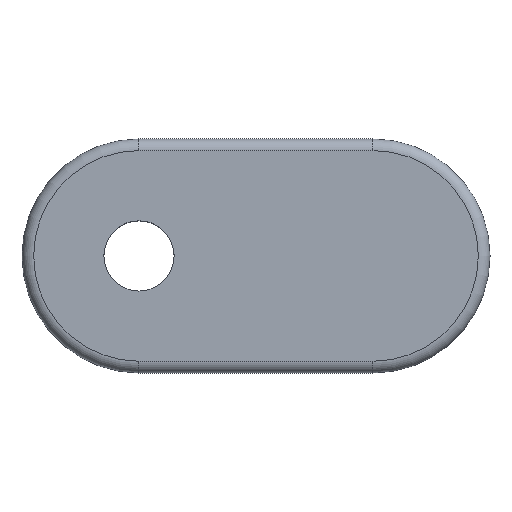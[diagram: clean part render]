
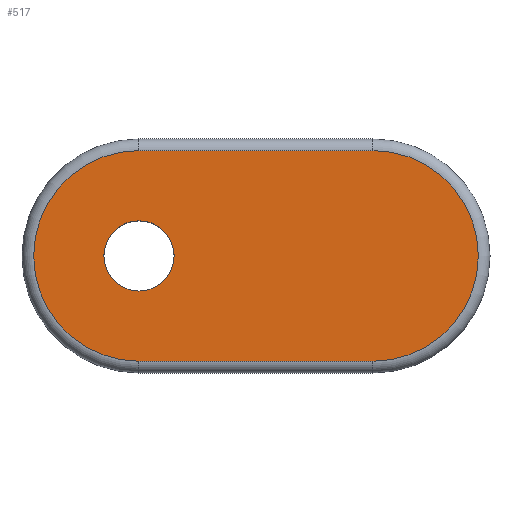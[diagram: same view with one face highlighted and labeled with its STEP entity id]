
A CAD part, top view. The second image highlights one B-rep face of the part: STEP entity #517.
In plain terms, the highlighted planar face has unit normal (0, 0, 1).
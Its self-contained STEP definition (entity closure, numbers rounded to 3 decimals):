
#72 = CYLINDRICAL_SURFACE('',#73,1.);
#73 = AXIS2_PLACEMENT_3D('',#74,#75,#76);
#74 = CARTESIAN_POINT('',(60.,1.,5.));
#75 = DIRECTION('',(1.,0.,0.));
#76 = DIRECTION('',(0.,-1.,-0.));
#186 = TOROIDAL_SURFACE('',#187,9.,1.);
#187 = AXIS2_PLACEMENT_3D('',#188,#189,#190);
#188 = CARTESIAN_POINT('',(60.,10.,5.));
#189 = DIRECTION('',(0.,0.,1.));
#190 = DIRECTION('',(0.,1.,0.));
#225 = VERTEX_POINT('',#226);
#226 = CARTESIAN_POINT('',(60.,1.,6.));
#248 = EDGE_CURVE('',#225,#249,#251,.T.);
#249 = VERTEX_POINT('',#250);
#250 = CARTESIAN_POINT('',(80.,1.,6.));
#251 = SURFACE_CURVE('',#252,(#256,#263),.PCURVE_S1.);
#252 = LINE('',#253,#254);
#253 = CARTESIAN_POINT('',(60.,1.,6.));
#254 = VECTOR('',#255,1.);
#255 = DIRECTION('',(1.,0.,0.));
#256 = PCURVE('',#72,#257);
#257 = DEFINITIONAL_REPRESENTATION('',(#258),#262);
#258 = LINE('',#259,#260);
#259 = CARTESIAN_POINT('',(-1.571,0.));
#260 = VECTOR('',#261,1.);
#261 = DIRECTION('',(-0.,1.));
#262 = ( GEOMETRIC_REPRESENTATION_CONTEXT(2) 
PARAMETRIC_REPRESENTATION_CONTEXT() REPRESENTATION_CONTEXT('2D SPACE',''
  ) );
#263 = PCURVE('',#264,#269);
#264 = PLANE('',#265);
#265 = AXIS2_PLACEMENT_3D('',#266,#267,#268);
#266 = CARTESIAN_POINT('',(70.,10.,6.));
#267 = DIRECTION('',(0.,0.,1.));
#268 = DIRECTION('',(1.,0.,0.));
#269 = DEFINITIONAL_REPRESENTATION('',(#270),#274);
#270 = LINE('',#271,#272);
#271 = CARTESIAN_POINT('',(-10.,-9.));
#272 = VECTOR('',#273,1.);
#273 = DIRECTION('',(1.,0.));
#274 = ( GEOMETRIC_REPRESENTATION_CONTEXT(2) 
PARAMETRIC_REPRESENTATION_CONTEXT() REPRESENTATION_CONTEXT('2D SPACE',''
  ) );
#291 = TOROIDAL_SURFACE('',#292,9.,1.);
#292 = AXIS2_PLACEMENT_3D('',#293,#294,#295);
#293 = CARTESIAN_POINT('',(80.,10.,5.));
#294 = DIRECTION('',(0.,0.,1.));
#295 = DIRECTION('',(0.,-1.,0.));
#373 = CYLINDRICAL_SURFACE('',#374,3.);
#374 = AXIS2_PLACEMENT_3D('',#375,#376,#377);
#375 = CARTESIAN_POINT('',(60.,10.,0.));
#376 = DIRECTION('',(0.,0.,1.));
#377 = DIRECTION('',(1.,0.,0.));
#453 = CYLINDRICAL_SURFACE('',#454,1.);
#454 = AXIS2_PLACEMENT_3D('',#455,#456,#457);
#455 = CARTESIAN_POINT('',(80.,19.,5.));
#456 = DIRECTION('',(-1.,0.,0.));
#457 = DIRECTION('',(0.,1.,0.));
#471 = VERTEX_POINT('',#472);
#472 = CARTESIAN_POINT('',(60.,19.,6.));
#496 = EDGE_CURVE('',#471,#225,#497,.T.);
#497 = SURFACE_CURVE('',#498,(#503,#510),.PCURVE_S1.);
#498 = CIRCLE('',#499,9.);
#499 = AXIS2_PLACEMENT_3D('',#500,#501,#502);
#500 = CARTESIAN_POINT('',(60.,10.,6.));
#501 = DIRECTION('',(0.,-0.,1.));
#502 = DIRECTION('',(0.,1.,0.));
#503 = PCURVE('',#186,#504);
#504 = DEFINITIONAL_REPRESENTATION('',(#505),#509);
#505 = LINE('',#506,#507);
#506 = CARTESIAN_POINT('',(0.,1.571));
#507 = VECTOR('',#508,1.);
#508 = DIRECTION('',(1.,0.));
#509 = ( GEOMETRIC_REPRESENTATION_CONTEXT(2) 
PARAMETRIC_REPRESENTATION_CONTEXT() REPRESENTATION_CONTEXT('2D SPACE',''
  ) );
#510 = PCURVE('',#264,#511);
#511 = DEFINITIONAL_REPRESENTATION('',(#512),#516);
#512 = CIRCLE('',#513,9.);
#513 = AXIS2_PLACEMENT_2D('',#514,#515);
#514 = CARTESIAN_POINT('',(-10.,0.));
#515 = DIRECTION('',(0.,1.));
#516 = ( GEOMETRIC_REPRESENTATION_CONTEXT(2) 
PARAMETRIC_REPRESENTATION_CONTEXT() REPRESENTATION_CONTEXT('2D SPACE',''
  ) );
#517 = ADVANCED_FACE('',(#518,#567),#264,.T.);
#518 = FACE_BOUND('',#519,.T.);
#519 = EDGE_LOOP('',(#520,#521,#545,#566));
#520 = ORIENTED_EDGE('',*,*,#248,.T.);
#521 = ORIENTED_EDGE('',*,*,#522,.T.);
#522 = EDGE_CURVE('',#249,#523,#525,.T.);
#523 = VERTEX_POINT('',#524);
#524 = CARTESIAN_POINT('',(80.,19.,6.));
#525 = SURFACE_CURVE('',#526,(#531,#538),.PCURVE_S1.);
#526 = CIRCLE('',#527,9.);
#527 = AXIS2_PLACEMENT_3D('',#528,#529,#530);
#528 = CARTESIAN_POINT('',(80.,10.,6.));
#529 = DIRECTION('',(-0.,0.,1.));
#530 = DIRECTION('',(0.,-1.,0.));
#531 = PCURVE('',#264,#532);
#532 = DEFINITIONAL_REPRESENTATION('',(#533),#537);
#533 = CIRCLE('',#534,9.);
#534 = AXIS2_PLACEMENT_2D('',#535,#536);
#535 = CARTESIAN_POINT('',(10.,0.));
#536 = DIRECTION('',(0.,-1.));
#537 = ( GEOMETRIC_REPRESENTATION_CONTEXT(2) 
PARAMETRIC_REPRESENTATION_CONTEXT() REPRESENTATION_CONTEXT('2D SPACE',''
  ) );
#538 = PCURVE('',#291,#539);
#539 = DEFINITIONAL_REPRESENTATION('',(#540),#544);
#540 = LINE('',#541,#542);
#541 = CARTESIAN_POINT('',(0.,1.571));
#542 = VECTOR('',#543,1.);
#543 = DIRECTION('',(1.,0.));
#544 = ( GEOMETRIC_REPRESENTATION_CONTEXT(2) 
PARAMETRIC_REPRESENTATION_CONTEXT() REPRESENTATION_CONTEXT('2D SPACE',''
  ) );
#545 = ORIENTED_EDGE('',*,*,#546,.T.);
#546 = EDGE_CURVE('',#523,#471,#547,.T.);
#547 = SURFACE_CURVE('',#548,(#552,#559),.PCURVE_S1.);
#548 = LINE('',#549,#550);
#549 = CARTESIAN_POINT('',(80.,19.,6.));
#550 = VECTOR('',#551,1.);
#551 = DIRECTION('',(-1.,0.,0.));
#552 = PCURVE('',#264,#553);
#553 = DEFINITIONAL_REPRESENTATION('',(#554),#558);
#554 = LINE('',#555,#556);
#555 = CARTESIAN_POINT('',(10.,9.));
#556 = VECTOR('',#557,1.);
#557 = DIRECTION('',(-1.,0.));
#558 = ( GEOMETRIC_REPRESENTATION_CONTEXT(2) 
PARAMETRIC_REPRESENTATION_CONTEXT() REPRESENTATION_CONTEXT('2D SPACE',''
  ) );
#559 = PCURVE('',#453,#560);
#560 = DEFINITIONAL_REPRESENTATION('',(#561),#565);
#561 = LINE('',#562,#563);
#562 = CARTESIAN_POINT('',(-1.571,0.));
#563 = VECTOR('',#564,1.);
#564 = DIRECTION('',(-0.,1.));
#565 = ( GEOMETRIC_REPRESENTATION_CONTEXT(2) 
PARAMETRIC_REPRESENTATION_CONTEXT() REPRESENTATION_CONTEXT('2D SPACE',''
  ) );
#566 = ORIENTED_EDGE('',*,*,#496,.T.);
#567 = FACE_BOUND('',#568,.T.);
#568 = EDGE_LOOP('',(#569));
#569 = ORIENTED_EDGE('',*,*,#570,.F.);
#570 = EDGE_CURVE('',#571,#571,#573,.T.);
#571 = VERTEX_POINT('',#572);
#572 = CARTESIAN_POINT('',(63.,10.,6.));
#573 = SURFACE_CURVE('',#574,(#579,#586),.PCURVE_S1.);
#574 = CIRCLE('',#575,3.);
#575 = AXIS2_PLACEMENT_3D('',#576,#577,#578);
#576 = CARTESIAN_POINT('',(60.,10.,6.));
#577 = DIRECTION('',(0.,0.,1.));
#578 = DIRECTION('',(1.,0.,0.));
#579 = PCURVE('',#264,#580);
#580 = DEFINITIONAL_REPRESENTATION('',(#581),#585);
#581 = CIRCLE('',#582,3.);
#582 = AXIS2_PLACEMENT_2D('',#583,#584);
#583 = CARTESIAN_POINT('',(-10.,0.));
#584 = DIRECTION('',(1.,0.));
#585 = ( GEOMETRIC_REPRESENTATION_CONTEXT(2) 
PARAMETRIC_REPRESENTATION_CONTEXT() REPRESENTATION_CONTEXT('2D SPACE',''
  ) );
#586 = PCURVE('',#373,#587);
#587 = DEFINITIONAL_REPRESENTATION('',(#588),#592);
#588 = LINE('',#589,#590);
#589 = CARTESIAN_POINT('',(0.,6.));
#590 = VECTOR('',#591,1.);
#591 = DIRECTION('',(1.,0.));
#592 = ( GEOMETRIC_REPRESENTATION_CONTEXT(2) 
PARAMETRIC_REPRESENTATION_CONTEXT() REPRESENTATION_CONTEXT('2D SPACE',''
  ) );
